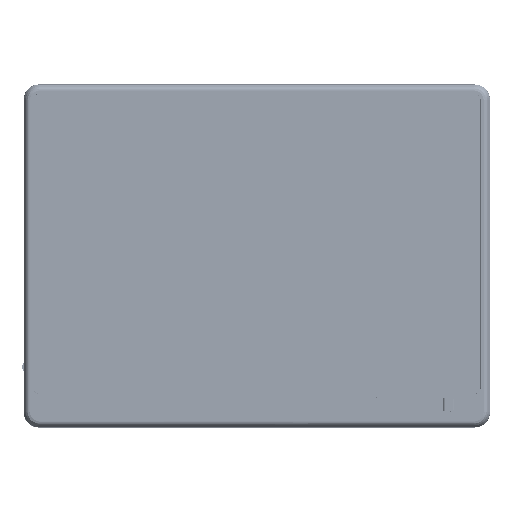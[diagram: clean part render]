
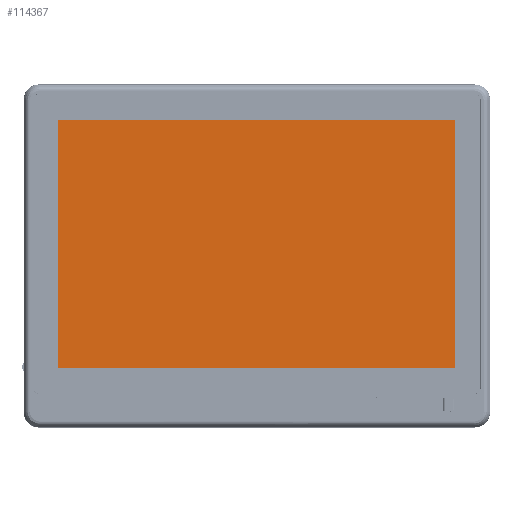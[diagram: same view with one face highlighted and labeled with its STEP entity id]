
A CAD part, top view. The second image highlights one B-rep face of the part: STEP entity #114367.
In plain terms, the highlighted planar face has unit normal (0, 0, 1).
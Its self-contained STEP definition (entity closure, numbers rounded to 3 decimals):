
#15868 = CARTESIAN_POINT ( 'NONE',  ( -16.385, -96.568, 321.554 ) ) ;
#27761 = FACE_BOUND ( 'NONE', #30331, .T. ) ;
#30331 = EDGE_LOOP ( 'NONE', ( #205039, #51395 ) ) ;
#48487 = DIRECTION ( 'NONE',  ( -1., 0., 0. ) ) ;
#51395 = ORIENTED_EDGE ( 'NONE', *, *, #592308, .T. ) ;
#54494 = VERTEX_POINT ( 'NONE', #15868 ) ;
#82027 = VERTEX_POINT ( 'NONE', #549625 ) ;
#95815 = AXIS2_PLACEMENT_3D ( 'NONE', #480524, #126007, #540074 ) ;
#100248 = CARTESIAN_POINT ( 'NONE',  ( -16.385, -96.568, 321.554 ) ) ;
#101984 = FACE_OUTER_BOUND ( 'NONE', #448791, .T. ) ;
#110806 = ORIENTED_EDGE ( 'NONE', *, *, #272193, .F. ) ;
#111718 = AXIS2_PLACEMENT_3D ( 'NONE', #505057, #150673, #564732 ) ;
#111824 = LINE ( 'NONE', #641127, #565558 ) ;
#114367 = ADVANCED_FACE ( 'NONE', ( #101984, #27761 ), #750180, .T. ) ;
#126007 = DIRECTION ( 'NONE',  ( 0., 0., -1. ) ) ;
#150673 = DIRECTION ( 'NONE',  ( 0., 0., -1. ) ) ;
#165801 = AXIS2_PLACEMENT_3D ( 'NONE', #574050, #219379, #633479 ) ;
#200219 = ORIENTED_EDGE ( 'NONE', *, *, #415468, .F. ) ;
#205039 = ORIENTED_EDGE ( 'NONE', *, *, #239006, .T. ) ;
#218704 = CARTESIAN_POINT ( 'NONE',  ( -278.585, 67.632, 321.554 ) ) ;
#219379 = DIRECTION ( 'NONE',  ( 0., 0., 1. ) ) ;
#239006 = EDGE_CURVE ( 'NONE', #280445, #503702, #742841, .T. ) ;
#243751 = EDGE_CURVE ( 'NONE', #629755, #412503, #378004, .T. ) ;
#272193 = EDGE_CURVE ( 'NONE', #82027, #54494, #375366, .T. ) ;
#274212 = CARTESIAN_POINT ( 'NONE',  ( -278.585, -96.568, 321.554 ) ) ;
#280445 = VERTEX_POINT ( 'NONE', #412751 ) ;
#298103 = CIRCLE ( 'NONE', #111718, 0.25 ) ;
#329013 = CARTESIAN_POINT ( 'NONE',  ( -147.235, -14.468, 321.554 ) ) ;
#336828 = LINE ( 'NONE', #462537, #494191 ) ;
#375366 = LINE ( 'NONE', #100248, #690027 ) ;
#378004 = LINE ( 'NONE', #450022, #516566 ) ;
#412503 = VERTEX_POINT ( 'NONE', #218704 ) ;
#412751 = CARTESIAN_POINT ( 'NONE',  ( -147.735, -14.468, 321.554 ) ) ;
#415468 = EDGE_CURVE ( 'NONE', #54494, #629755, #336828, .T. ) ;
#447968 = ORIENTED_EDGE ( 'NONE', *, *, #243751, .F. ) ;
#448791 = EDGE_LOOP ( 'NONE', ( #110806, #454603, #447968, #200219 ) ) ;
#450022 = CARTESIAN_POINT ( 'NONE',  ( -278.585, 67.632, 321.554 ) ) ;
#454603 = ORIENTED_EDGE ( 'NONE', *, *, #593111, .F. ) ;
#462537 = CARTESIAN_POINT ( 'NONE',  ( -278.585, -96.568, 321.554 ) ) ;
#480524 = CARTESIAN_POINT ( 'NONE',  ( -147.485, -14.468, 321.554 ) ) ;
#494191 = VECTOR ( 'NONE', #48487, 1000. ) ;
#503702 = VERTEX_POINT ( 'NONE', #329013 ) ;
#505057 = CARTESIAN_POINT ( 'NONE',  ( -147.485, -14.468, 321.554 ) ) ;
#509401 = DIRECTION ( 'NONE',  ( 0., 1., 0. ) ) ;
#514199 = DIRECTION ( 'NONE',  ( 0., -1., 0. ) ) ;
#516566 = VECTOR ( 'NONE', #509401, 1000. ) ;
#524596 = DIRECTION ( 'NONE',  ( 1., 0., 0. ) ) ;
#540074 = DIRECTION ( 'NONE',  ( 1., 0., 0. ) ) ;
#549625 = CARTESIAN_POINT ( 'NONE',  ( -16.385, 67.632, 321.554 ) ) ;
#564732 = DIRECTION ( 'NONE',  ( 1., 0., 0. ) ) ;
#565558 = VECTOR ( 'NONE', #524596, 1000. ) ;
#574050 = CARTESIAN_POINT ( 'NONE',  ( -595.017, -268.952, 321.554 ) ) ;
#592308 = EDGE_CURVE ( 'NONE', #503702, #280445, #298103, .T. ) ;
#593111 = EDGE_CURVE ( 'NONE', #412503, #82027, #111824, .T. ) ;
#629755 = VERTEX_POINT ( 'NONE', #274212 ) ;
#633479 = DIRECTION ( 'NONE',  ( 1., 0., 0. ) ) ;
#641127 = CARTESIAN_POINT ( 'NONE',  ( -16.385, 67.632, 321.554 ) ) ;
#690027 = VECTOR ( 'NONE', #514199, 1000. ) ;
#742841 = CIRCLE ( 'NONE', #95815, 0.25 ) ;
#750180 = PLANE ( 'NONE',  #165801 ) ;
